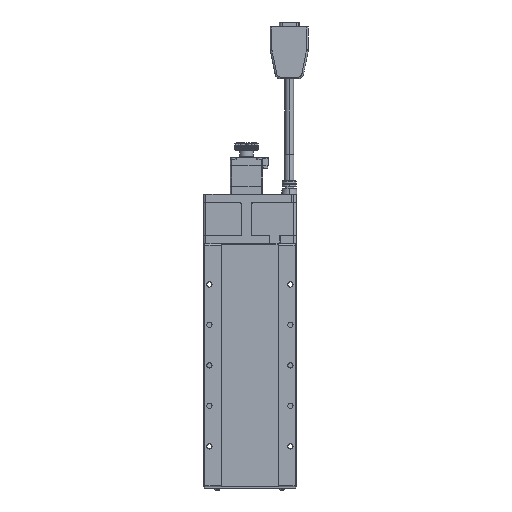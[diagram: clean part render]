
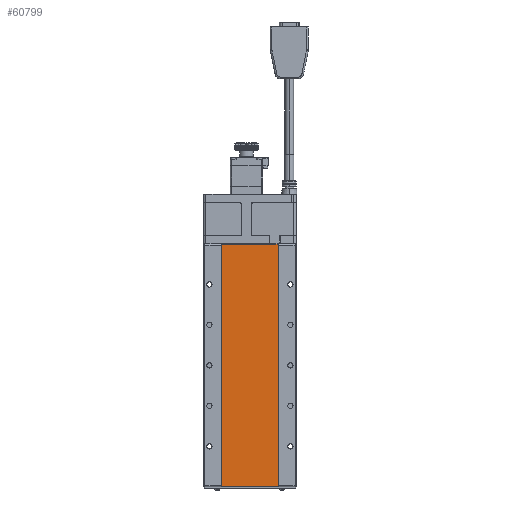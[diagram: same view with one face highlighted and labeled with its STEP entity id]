
A CAD part, front view. The second image highlights one B-rep face of the part: STEP entity #60799.
In plain terms, the highlighted planar face has unit normal (0, -1, 0).
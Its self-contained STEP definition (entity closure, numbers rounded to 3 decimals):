
#1896 = VERTEX_POINT ( 'NONE', #128217 ) ;
#1957 = CARTESIAN_POINT ( 'NONE',  ( 22.3, 0.5, 209.3 ) ) ;
#3022 = ORIENTED_EDGE ( 'NONE', *, *, #68923, .F. ) ;
#3982 = CARTESIAN_POINT ( 'NONE',  ( -24.3, 0.5, 209.8 ) ) ;
#4221 = VERTEX_POINT ( 'NONE', #128701 ) ;
#4324 = CARTESIAN_POINT ( 'NONE',  ( -24.3, 0.5, 0.7 ) ) ;
#5232 = CIRCLE ( 'NONE', #65514, 0.5 ) ;
#5863 = DIRECTION ( 'NONE',  ( -1., 0., 0. ) ) ;
#7409 = DIRECTION ( 'NONE',  ( -1., 0., 0. ) ) ;
#7504 = VERTEX_POINT ( 'NONE', #32020 ) ;
#8167 = LINE ( 'NONE', #90744, #127673 ) ;
#9332 = LINE ( 'NONE', #65251, #52136 ) ;
#11425 = DIRECTION ( 'NONE',  ( -1., 0., 0. ) ) ;
#12626 = DIRECTION ( 'NONE',  ( 1., 0., 0. ) ) ;
#15242 = EDGE_CURVE ( 'NONE', #47603, #1896, #67925, .T. ) ;
#16509 = VECTOR ( 'NONE', #78811, 1000. ) ;
#17456 = EDGE_CURVE ( 'NONE', #7504, #117413, #24016, .T. ) ;
#17910 = DIRECTION ( 'NONE',  ( 0., -1., 0. ) ) ;
#22130 = CARTESIAN_POINT ( 'NONE',  ( 20.3, 0.5, 209.8 ) ) ;
#22406 = LINE ( 'NONE', #118880, #54598 ) ;
#22550 = EDGE_CURVE ( 'NONE', #24412, #77887, #36188, .T. ) ;
#24016 = LINE ( 'NONE', #74369, #71474 ) ;
#24412 = VERTEX_POINT ( 'NONE', #79193 ) ;
#28678 = LINE ( 'NONE', #92289, #103481 ) ;
#32008 = EDGE_CURVE ( 'NONE', #86167, #47603, #79934, .T. ) ;
#32020 = CARTESIAN_POINT ( 'NONE',  ( 23.8, 0.5, 209.8 ) ) ;
#32685 = LINE ( 'NONE', #22130, #132684 ) ;
#32976 = CARTESIAN_POINT ( 'NONE',  ( -24.3, 0.5, 209.8 ) ) ;
#35167 = DIRECTION ( 'NONE',  ( 0., -1., 0. ) ) ;
#35950 = DIRECTION ( 'NONE',  ( -1., 0., 0. ) ) ;
#36127 = ORIENTED_EDGE ( 'NONE', *, *, #15242, .T. ) ;
#36188 = LINE ( 'NONE', #3982, #16509 ) ;
#36465 = ORIENTED_EDGE ( 'NONE', *, *, #128855, .T. ) ;
#37384 = CARTESIAN_POINT ( 'NONE',  ( 23.8, 0.5, 0.7 ) ) ;
#37561 = AXIS2_PLACEMENT_3D ( 'NONE', #37384, #112113, #5863 ) ;
#38973 = DIRECTION ( 'NONE',  ( 1., 0., 0. ) ) ;
#40280 = EDGE_CURVE ( 'NONE', #4221, #79227, #9332, .T. ) ;
#47603 = VERTEX_POINT ( 'NONE', #83881 ) ;
#49371 = CARTESIAN_POINT ( 'NONE',  ( -23.8, 0.5, 0.7 ) ) ;
#51480 = AXIS2_PLACEMENT_3D ( 'NONE', #91020, #35167, #77784 ) ;
#52136 = VECTOR ( 'NONE', #73642, 1000. ) ;
#52386 = DIRECTION ( 'NONE',  ( 0., 0., 1. ) ) ;
#53132 = CARTESIAN_POINT ( 'NONE',  ( -23.8, 0.5, 209.8 ) ) ;
#53225 = DIRECTION ( 'NONE',  ( 0., 1., 0. ) ) ;
#54598 = VECTOR ( 'NONE', #12626, 1000. ) ;
#57101 = CARTESIAN_POINT ( 'NONE',  ( 20.3, 0.5, 209.3 ) ) ;
#58095 = CIRCLE ( 'NONE', #80335, 0.5 ) ;
#58434 = ORIENTED_EDGE ( 'NONE', *, *, #22550, .T. ) ;
#58811 = ORIENTED_EDGE ( 'NONE', *, *, #114579, .F. ) ;
#59647 = CARTESIAN_POINT ( 'NONE',  ( 22.3, 0.5, 209.8 ) ) ;
#60799 = ADVANCED_FACE ( 'NONE', ( #96550 ), #95171, .F. ) ;
#65251 = CARTESIAN_POINT ( 'NONE',  ( -24.3, 0.5, 0.2 ) ) ;
#65514 = AXIS2_PLACEMENT_3D ( 'NONE', #49371, #17910, #7409 ) ;
#67925 = LINE ( 'NONE', #68603, #106765 ) ;
#68603 = CARTESIAN_POINT ( 'NONE',  ( 24.3, 0.5, 0.2 ) ) ;
#68923 = EDGE_CURVE ( 'NONE', #24412, #82823, #32685, .T. ) ;
#71160 = EDGE_CURVE ( 'NONE', #82823, #84710, #22406, .T. ) ;
#71474 = VECTOR ( 'NONE', #11425, 1000. ) ;
#71550 = CIRCLE ( 'NONE', #51480, 0.5 ) ;
#73642 = DIRECTION ( 'NONE',  ( 0., 0., -1. ) ) ;
#74212 = CARTESIAN_POINT ( 'NONE',  ( 23.8, 0.5, 0.2 ) ) ;
#74369 = CARTESIAN_POINT ( 'NONE',  ( -24.3, 0.5, 209.8 ) ) ;
#76662 = EDGE_CURVE ( 'NONE', #137490, #86167, #8167, .T. ) ;
#77784 = DIRECTION ( 'NONE',  ( -1., 0., 0. ) ) ;
#77887 = VERTEX_POINT ( 'NONE', #53132 ) ;
#78811 = DIRECTION ( 'NONE',  ( -1., 0., 0. ) ) ;
#78938 = ORIENTED_EDGE ( 'NONE', *, *, #71160, .F. ) ;
#79193 = CARTESIAN_POINT ( 'NONE',  ( 20.3, 0.5, 209.8 ) ) ;
#79227 = VERTEX_POINT ( 'NONE', #4324 ) ;
#79934 = CIRCLE ( 'NONE', #37561, 0.5 ) ;
#79937 = DIRECTION ( 'NONE',  ( 0., -1., 0. ) ) ;
#80335 = AXIS2_PLACEMENT_3D ( 'NONE', #123276, #79937, #35950 ) ;
#82823 = VERTEX_POINT ( 'NONE', #57101 ) ;
#83881 = CARTESIAN_POINT ( 'NONE',  ( 24.3, 0.5, 0.7 ) ) ;
#84710 = VERTEX_POINT ( 'NONE', #1957 ) ;
#86167 = VERTEX_POINT ( 'NONE', #74212 ) ;
#89064 = ORIENTED_EDGE ( 'NONE', *, *, #17456, .T. ) ;
#90744 = CARTESIAN_POINT ( 'NONE',  ( -24.3, 0.5, 0.2 ) ) ;
#91020 = CARTESIAN_POINT ( 'NONE',  ( 23.8, 0.5, 209.3 ) ) ;
#92289 = CARTESIAN_POINT ( 'NONE',  ( 22.3, 0.5, 209.8 ) ) ;
#95171 = PLANE ( 'NONE',  #106578 ) ;
#95843 = DIRECTION ( 'NONE',  ( -1., 0., 0. ) ) ;
#96550 = FACE_OUTER_BOUND ( 'NONE', #105685, .T. ) ;
#97985 = EDGE_CURVE ( 'NONE', #79227, #137490, #5232, .T. ) ;
#102989 = ORIENTED_EDGE ( 'NONE', *, *, #111563, .T. ) ;
#103481 = VECTOR ( 'NONE', #52386, 1000. ) ;
#105403 = ORIENTED_EDGE ( 'NONE', *, *, #32008, .T. ) ;
#105685 = EDGE_LOOP ( 'NONE', ( #78938, #3022, #58434, #36465, #137889, #116250, #121764, #105403, #36127, #102989, #89064, #58811 ) ) ;
#106578 = AXIS2_PLACEMENT_3D ( 'NONE', #32976, #53225, #95843 ) ;
#106737 = DIRECTION ( 'NONE',  ( 0., 0., -1. ) ) ;
#106765 = VECTOR ( 'NONE', #110551, 1000. ) ;
#109757 = CARTESIAN_POINT ( 'NONE',  ( -23.8, 0.5, 0.2 ) ) ;
#110551 = DIRECTION ( 'NONE',  ( 0., 0., 1. ) ) ;
#111563 = EDGE_CURVE ( 'NONE', #1896, #7504, #71550, .T. ) ;
#112113 = DIRECTION ( 'NONE',  ( 0., -1., 0. ) ) ;
#114579 = EDGE_CURVE ( 'NONE', #84710, #117413, #28678, .T. ) ;
#116250 = ORIENTED_EDGE ( 'NONE', *, *, #97985, .T. ) ;
#117413 = VERTEX_POINT ( 'NONE', #59647 ) ;
#118880 = CARTESIAN_POINT ( 'NONE',  ( 20.3, 0.5, 209.3 ) ) ;
#121764 = ORIENTED_EDGE ( 'NONE', *, *, #76662, .T. ) ;
#123276 = CARTESIAN_POINT ( 'NONE',  ( -23.8, 0.5, 209.3 ) ) ;
#127673 = VECTOR ( 'NONE', #38973, 1000. ) ;
#128217 = CARTESIAN_POINT ( 'NONE',  ( 24.3, 0.5, 209.3 ) ) ;
#128701 = CARTESIAN_POINT ( 'NONE',  ( -24.3, 0.5, 209.3 ) ) ;
#128855 = EDGE_CURVE ( 'NONE', #77887, #4221, #58095, .T. ) ;
#132684 = VECTOR ( 'NONE', #106737, 1000. ) ;
#137490 = VERTEX_POINT ( 'NONE', #109757 ) ;
#137889 = ORIENTED_EDGE ( 'NONE', *, *, #40280, .T. ) ;
